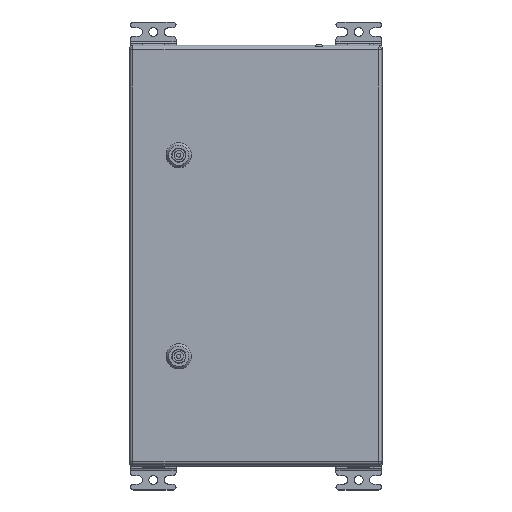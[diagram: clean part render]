
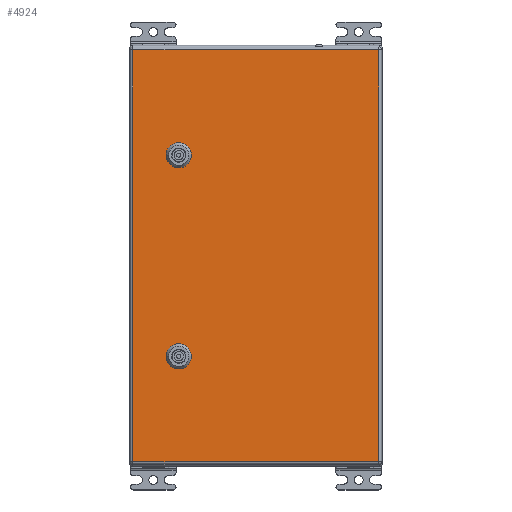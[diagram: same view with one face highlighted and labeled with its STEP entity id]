
A CAD part, top view. The second image highlights one B-rep face of the part: STEP entity #4924.
In plain terms, the highlighted planar face has unit normal (0, 0, 1).
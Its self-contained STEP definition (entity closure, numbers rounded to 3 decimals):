
#4924=ADVANCED_FACE('',(#12599,#12601,#12603),#12605,.T.);
#12599=FACE_BOUND('',#12600,.T.);
#12600=EDGE_LOOP('',(#34791,#34792,#34793,#34794));
#12601=FACE_BOUND('',#12602,.T.);
#12602=EDGE_LOOP('',(#34795,#34796,#34797,#34798,#34799,#34800,#34801,#34802));
#12603=FACE_BOUND('',#12604,.T.);
#12604=EDGE_LOOP('',(#34803,#34804,#34805,#34806,#34807,#34808,#34809,#34810));
#12605=PLANE('',#12606);
#12606=AXIS2_PLACEMENT_3D('',#12607,#12608,#12609);
#12607=CARTESIAN_POINT('',(0.,0.,1.5));
#12608=DIRECTION('',(0.,0.,1.));
#12609=DIRECTION('',(1.,0.,0.));
#34791=ORIENTED_EDGE('',*,*,#38952,.T.);
#34792=ORIENTED_EDGE('',*,*,#38953,.T.);
#34793=ORIENTED_EDGE('',*,*,#38954,.T.);
#34794=ORIENTED_EDGE('',*,*,#38955,.T.);
#34795=ORIENTED_EDGE('',*,*,#38920,.T.);
#34796=ORIENTED_EDGE('',*,*,#38934,.T.);
#34797=ORIENTED_EDGE('',*,*,#38932,.T.);
#34798=ORIENTED_EDGE('',*,*,#38930,.T.);
#34799=ORIENTED_EDGE('',*,*,#38928,.T.);
#34800=ORIENTED_EDGE('',*,*,#38926,.T.);
#34801=ORIENTED_EDGE('',*,*,#38924,.T.);
#34802=ORIENTED_EDGE('',*,*,#38922,.T.);
#34803=ORIENTED_EDGE('',*,*,#38904,.T.);
#34804=ORIENTED_EDGE('',*,*,#38918,.T.);
#34805=ORIENTED_EDGE('',*,*,#38916,.T.);
#34806=ORIENTED_EDGE('',*,*,#38914,.T.);
#34807=ORIENTED_EDGE('',*,*,#38912,.T.);
#34808=ORIENTED_EDGE('',*,*,#38910,.T.);
#34809=ORIENTED_EDGE('',*,*,#38908,.T.);
#34810=ORIENTED_EDGE('',*,*,#38906,.T.);
#38904=EDGE_CURVE('',#42304,#42302,#42305,.T.);
#38906=EDGE_CURVE('',#42307,#42304,#42308,.F.);
#38908=EDGE_CURVE('',#42310,#42307,#42311,.T.);
#38910=EDGE_CURVE('',#42313,#42310,#42314,.F.);
#38912=EDGE_CURVE('',#42316,#42313,#42317,.T.);
#38914=EDGE_CURVE('',#42319,#42316,#42320,.F.);
#38916=EDGE_CURVE('',#42322,#42319,#42323,.T.);
#38918=EDGE_CURVE('',#42302,#42322,#42325,.F.);
#38920=EDGE_CURVE('',#42328,#42326,#42329,.T.);
#38922=EDGE_CURVE('',#42331,#42328,#42332,.F.);
#38924=EDGE_CURVE('',#42334,#42331,#42335,.T.);
#38926=EDGE_CURVE('',#42337,#42334,#42338,.F.);
#38928=EDGE_CURVE('',#42340,#42337,#42341,.T.);
#38930=EDGE_CURVE('',#42343,#42340,#42344,.F.);
#38932=EDGE_CURVE('',#42346,#42343,#42347,.T.);
#38934=EDGE_CURVE('',#42326,#42346,#42349,.F.);
#38952=EDGE_CURVE('',#42376,#42377,#42378,.T.);
#38953=EDGE_CURVE('',#42377,#42379,#42380,.T.);
#38954=EDGE_CURVE('',#42379,#42381,#42382,.T.);
#38955=EDGE_CURVE('',#42381,#42376,#42383,.T.);
#42302=VERTEX_POINT('',#51453);
#42304=VERTEX_POINT('',#51457);
#42305=CIRCLE('',#51458,11.25);
#42307=VERTEX_POINT('',#51465);
#42308=LINE('',#51466,#51467);
#42310=VERTEX_POINT('',#51472);
#42311=CIRCLE('',#51473,11.25);
#42313=VERTEX_POINT('',#51480);
#42314=LINE('',#51481,#51482);
#42316=VERTEX_POINT('',#51487);
#42317=CIRCLE('',#51488,11.25);
#42319=VERTEX_POINT('',#51495);
#42320=LINE('',#51496,#51497);
#42322=VERTEX_POINT('',#51502);
#42323=CIRCLE('',#51503,11.25);
#42325=LINE('',#51510,#51511);
#42326=VERTEX_POINT('',#51513);
#42328=VERTEX_POINT('',#51517);
#42329=CIRCLE('',#51518,11.25);
#42331=VERTEX_POINT('',#51525);
#42332=LINE('',#51526,#51527);
#42334=VERTEX_POINT('',#51532);
#42335=CIRCLE('',#51533,11.25);
#42337=VERTEX_POINT('',#51540);
#42338=LINE('',#51541,#51542);
#42340=VERTEX_POINT('',#51547);
#42341=CIRCLE('',#51548,11.25);
#42343=VERTEX_POINT('',#51555);
#42344=LINE('',#51556,#51557);
#42346=VERTEX_POINT('',#51562);
#42347=CIRCLE('',#51563,11.25);
#42349=LINE('',#51570,#51571);
#42376=VERTEX_POINT('',#51634);
#42377=VERTEX_POINT('',#51635);
#42378=LINE('',#51636,#51637);
#42379=VERTEX_POINT('',#51639);
#42380=LINE('',#51640,#51641);
#42381=VERTEX_POINT('',#51643);
#42382=LINE('',#51644,#51645);
#42383=LINE('',#51647,#51648);
#51453=CARTESIAN_POINT('',(-129.955,-44.4,1.5));
#51457=CARTESIAN_POINT('',(-135.1,-49.545,1.5));
#51458=AXIS2_PLACEMENT_3D('',#51459,#51460,#51461);
#51459=CARTESIAN_POINT('',(-125.,-54.5,1.5));
#51460=DIRECTION('',(0.,0.,-1.));
#51461=DIRECTION('',(-0.898,0.44,0.));
#51465=CARTESIAN_POINT('',(-135.1,-59.455,1.5));
#51466=CARTESIAN_POINT('',(-135.1,-49.545,1.5));
#51467=VECTOR('',#51468,1.);
#51468=DIRECTION('',(0.,-1.,0.));
#51472=CARTESIAN_POINT('',(-129.955,-64.6,1.5));
#51473=AXIS2_PLACEMENT_3D('',#51474,#51475,#51476);
#51474=CARTESIAN_POINT('',(-125.,-54.5,1.5));
#51475=DIRECTION('',(0.,0.,-1.));
#51476=DIRECTION('',(-0.44,-0.898,0.));
#51480=CARTESIAN_POINT('',(-120.045,-64.6,1.5));
#51481=CARTESIAN_POINT('',(-129.955,-64.6,1.5));
#51482=VECTOR('',#51483,1.);
#51483=DIRECTION('',(1.,0.,0.));
#51487=CARTESIAN_POINT('',(-114.9,-59.455,1.5));
#51488=AXIS2_PLACEMENT_3D('',#51489,#51490,#51491);
#51489=CARTESIAN_POINT('',(-125.,-54.5,1.5));
#51490=DIRECTION('',(0.,0.,-1.));
#51491=DIRECTION('',(0.898,-0.44,0.));
#51495=CARTESIAN_POINT('',(-114.9,-49.545,1.5));
#51496=CARTESIAN_POINT('',(-114.9,-59.455,1.5));
#51497=VECTOR('',#51498,1.);
#51498=DIRECTION('',(0.,1.,0.));
#51502=CARTESIAN_POINT('',(-120.045,-44.4,1.5));
#51503=AXIS2_PLACEMENT_3D('',#51504,#51505,#51506);
#51504=CARTESIAN_POINT('',(-125.,-54.5,1.5));
#51505=DIRECTION('',(0.,0.,-1.));
#51506=DIRECTION('',(0.44,0.898,0.));
#51510=CARTESIAN_POINT('',(-120.045,-44.4,1.5));
#51511=VECTOR('',#51512,1.);
#51512=DIRECTION('',(-1.,0.,0.));
#51513=CARTESIAN_POINT('',(-368.955,-44.4,1.5));
#51517=CARTESIAN_POINT('',(-374.1,-49.545,1.5));
#51518=AXIS2_PLACEMENT_3D('',#51519,#51520,#51521);
#51519=CARTESIAN_POINT('',(-364.,-54.5,1.5));
#51520=DIRECTION('',(0.,0.,-1.));
#51521=DIRECTION('',(-0.898,0.44,0.));
#51525=CARTESIAN_POINT('',(-374.1,-59.455,1.5));
#51526=CARTESIAN_POINT('',(-374.1,-49.545,1.5));
#51527=VECTOR('',#51528,1.);
#51528=DIRECTION('',(0.,-1.,0.));
#51532=CARTESIAN_POINT('',(-368.955,-64.6,1.5));
#51533=AXIS2_PLACEMENT_3D('',#51534,#51535,#51536);
#51534=CARTESIAN_POINT('',(-364.,-54.5,1.5));
#51535=DIRECTION('',(0.,0.,-1.));
#51536=DIRECTION('',(-0.44,-0.898,0.));
#51540=CARTESIAN_POINT('',(-359.045,-64.6,1.5));
#51541=CARTESIAN_POINT('',(-368.955,-64.6,1.5));
#51542=VECTOR('',#51543,1.);
#51543=DIRECTION('',(1.,0.,0.));
#51547=CARTESIAN_POINT('',(-353.9,-59.455,1.5));
#51548=AXIS2_PLACEMENT_3D('',#51549,#51550,#51551);
#51549=CARTESIAN_POINT('',(-364.,-54.5,1.5));
#51550=DIRECTION('',(0.,0.,-1.));
#51551=DIRECTION('',(0.898,-0.44,0.));
#51555=CARTESIAN_POINT('',(-353.9,-49.545,1.5));
#51556=CARTESIAN_POINT('',(-353.9,-59.455,1.5));
#51557=VECTOR('',#51558,1.);
#51558=DIRECTION('',(0.,1.,0.));
#51562=CARTESIAN_POINT('',(-359.045,-44.4,1.5));
#51563=AXIS2_PLACEMENT_3D('',#51564,#51565,#51566);
#51564=CARTESIAN_POINT('',(-364.,-54.5,1.5));
#51565=DIRECTION('',(0.,0.,-1.));
#51566=DIRECTION('',(0.44,0.898,0.));
#51570=CARTESIAN_POINT('',(-359.045,-44.4,1.5));
#51571=VECTOR('',#51572,1.);
#51572=DIRECTION('',(-1.,0.,0.));
#51634=CARTESIAN_POINT('',(-489.,0.,1.5));
#51635=CARTESIAN_POINT('',(-489.,-292.,1.5));
#51636=CARTESIAN_POINT('',(-489.,0.,1.5));
#51637=VECTOR('',#51638,1.);
#51638=DIRECTION('',(0.,-1.,0.));
#51639=CARTESIAN_POINT('',(0.,-292.,1.5));
#51640=CARTESIAN_POINT('',(-489.,-292.,1.5));
#51641=VECTOR('',#51642,1.);
#51642=DIRECTION('',(1.,0.,0.));
#51643=CARTESIAN_POINT('',(0.,0.,1.5));
#51644=CARTESIAN_POINT('',(0.,-292.,1.5));
#51645=VECTOR('',#51646,1.);
#51646=DIRECTION('',(0.,1.,0.));
#51647=CARTESIAN_POINT('',(0.,0.,1.5));
#51648=VECTOR('',#51649,1.);
#51649=DIRECTION('',(-1.,0.,0.));
